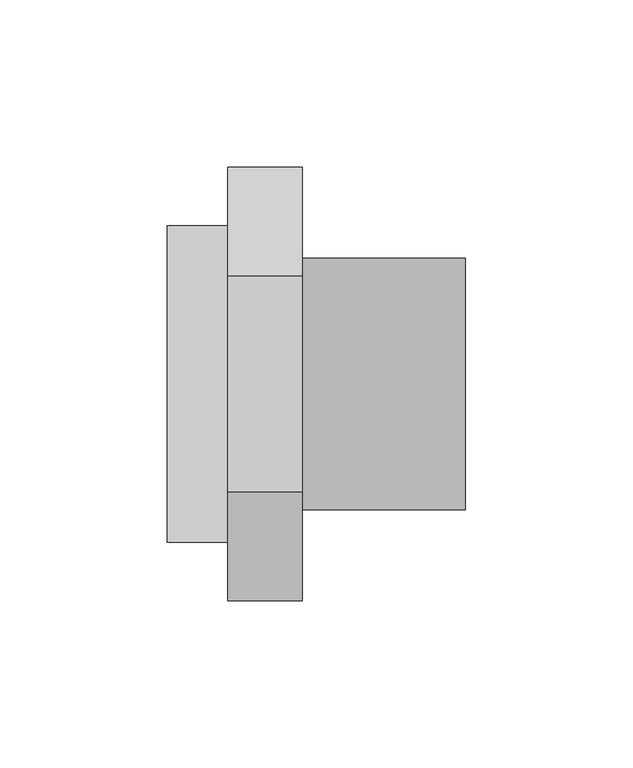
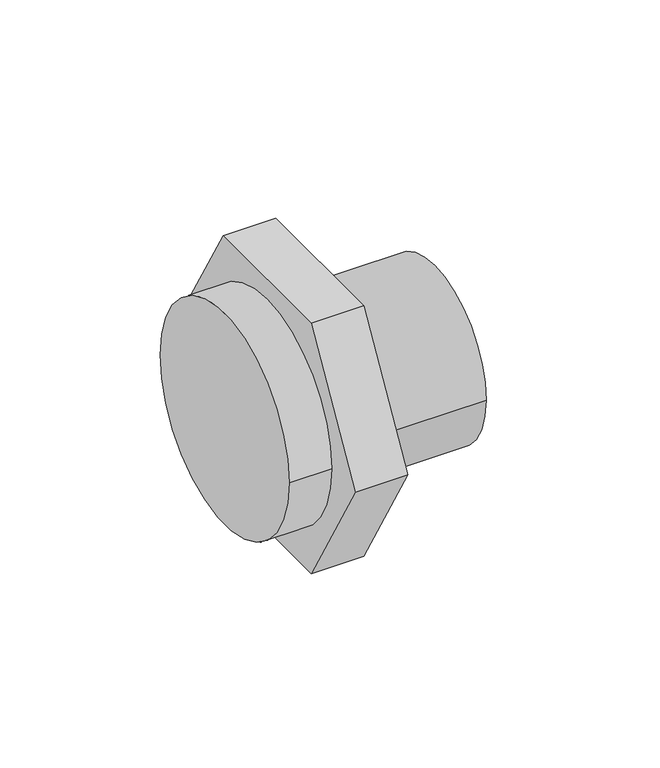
"""IFC4 building model written with IfcOpenShell, lengths in millimetres: pipe fitting geometry, 01101008 : Uniões múltiplas F/M/F."""

import ifcopenshell
import ifcopenshell.guid

model = None  # the IFC model being written
_history = None  # IfcOwnerHistory: only IFC2X3 demands one
_inside = {}  # id of a spatial element -> (the spatial element, [elements in it])
_under = {}  # id of a project, library or spatial element -> (it, [spatial elements below it])
_declared = {}  # id of a project -> (the project, [libraries it declares])
_typed = {}  # id of a type object -> (the type object, [elements of that type])
_made_of = {}  # id of a material, layer set ... -> (it, [elements and type objects made of it])


def new_model(schema):
    """Start an empty IFC model of exactly this schema.

    Asked for "IFC4X3", IfcOpenShell would pick the latest addendum, in which some entities
    have other attributes; the version numbers below select the first issue.
    IFC2X3 requires an IfcOwnerHistory on every rooted entity: one is made here for all.
    """
    global model, _history
    if schema == "IFC4X3":
        model = ifcopenshell.file(schema_version=(4, 3, 0, 0))
    else:
        model = ifcopenshell.file(schema=schema)
    _inside.clear()
    _under.clear()
    _declared.clear()
    _typed.clear()
    _made_of.clear()
    _history = None
    if model.schema == "IFC2X3":
        org = make("IfcOrganization", Name="unknown")
        user = make(
            "IfcPersonAndOrganization",
            ThePerson=make("IfcPerson", FamilyName="unknown"),
            TheOrganization=org,
        )
        app = make(
            "IfcApplication",
            ApplicationDeveloper=org,
            Version="unknown",
            ApplicationFullName="unknown",
            ApplicationIdentifier="unknown",
        )
        _history = make(
            "IfcOwnerHistory",
            OwningUser=user,
            OwningApplication=app,
            ChangeAction="ADDED",
            CreationDate=0,
        )
    return model


def make(cls, **values):
    """One entity of the class cls with the attributes given. An attribute that is None is left unset."""
    return model.create_entity(
        cls, **{name: value for name, value in values.items() if value is not None}
    )


def rooted(cls, **values):
    """An entity with a GlobalId (a new one), such as an element, a storey or a relation."""
    return make(cls, GlobalId=ifcopenshell.guid.new(), OwnerHistory=_history, **values)


def si_unit(unit_type, name, prefix=None):
    """IfcSIUnit, for example si_unit("LENGTHUNIT", "METRE", prefix="MILLI")."""
    return make("IfcSIUnit", UnitType=unit_type, Prefix=prefix, Name=name)


def assignment(units):
    """IfcUnitAssignment: the units of a project."""
    return None if units is None else make("IfcUnitAssignment", Units=units)


def point(xyz):
    """IfcCartesianPoint."""
    return None if xyz is None else make("IfcCartesianPoint", Coordinates=xyz)


def direction(xyz):
    """IfcDirection."""
    return None if xyz is None else make("IfcDirection", DirectionRatios=xyz)


def frame(location, z_axis=None, x_axis=None):
    """IfcAxis2Placement3D, a coordinate frame: its origin and axes. An axis left out is left unset."""
    return make(
        "IfcAxis2Placement3D",
        Location=point(location),
        Axis=direction(z_axis),
        RefDirection=direction(x_axis),
    )


def frame_2d(location, x_axis=None):
    """IfcAxis2Placement2D, a coordinate frame in the plane: its origin and x axis."""
    return make(
        "IfcAxis2Placement2D", Location=point(location), RefDirection=direction(x_axis)
    )


def origin():
    """The frame at (0, 0, 0) with its axes left unset."""
    return frame((0.0, 0.0, 0.0))


def origin_2d():
    """The frame at (0, 0) in the plane with its x axis left unset."""
    return frame_2d((0.0, 0.0))


def place(relative_to, where):
    """IfcLocalPlacement: puts the frame where relative to a parent placement (None: the world)."""
    return make(
        "IfcLocalPlacement", PlacementRelTo=relative_to, RelativePlacement=where
    )


def context(
    kind, dimensions, precision=None, world=None, true_north=None, identifier=None
):
    """IfcGeometricRepresentationContext, for example the 3D "Model" context."""
    return make(
        "IfcGeometricRepresentationContext",
        ContextIdentifier=identifier,
        ContextType=kind,
        CoordinateSpaceDimension=dimensions,
        Precision=precision,
        WorldCoordinateSystem=world,
        TrueNorth=true_north,
    )


def project(units=None, contexts=None):
    """IfcProject with its units and contexts."""
    return rooted(
        "IfcProject",
        Name="project",
        RepresentationContexts=contexts,
        UnitsInContext=assignment(units),
    )


def spatial(cls, under=None, at=None, **own):
    """A site, building, storey or space (cls), placed at a placement, below another one or the project."""
    s = rooted(cls, ObjectPlacement=at, **own)
    if under is not None:
        _under.setdefault(under.id(), (under, []))[1].append(s)
    return s


def polyline(points):
    """IfcPolyline through the points."""
    return make("IfcPolyline", Points=[point(p) for p in points])


def circle_curve(where, radius):
    """IfcCircle in the frame where."""
    return make("IfcCircle", Position=where, Radius=radius)


def trimmed(basis, trim1, trim2, sense, master):
    """IfcTrimmedCurve: the piece of a basis curve between two trims."""
    return make(
        "IfcTrimmedCurve",
        BasisCurve=basis,
        Trim1=trim1,
        Trim2=trim2,
        SenseAgreement=sense,
        MasterRepresentation=master,
    )


def segment(curve, same_sense, transition):
    """IfcCompositeCurveSegment."""
    return make(
        "IfcCompositeCurveSegment",
        Transition=transition,
        SameSense=same_sense,
        ParentCurve=curve,
    )


def composite_curve(segments, self_intersect=None):
    """IfcCompositeCurve: segments joined end to end."""
    return make("IfcCompositeCurve", Segments=segments, SelfIntersect=self_intersect)


def outline(outer, holes=None, kind="AREA"):
    """IfcArbitraryClosedProfileDef: a profile drawn as a closed curve; with holes, ...WithVoids."""
    if holes is None:
        return make("IfcArbitraryClosedProfileDef", ProfileType=kind, OuterCurve=outer)
    return make(
        "IfcArbitraryProfileDefWithVoids",
        ProfileType=kind,
        OuterCurve=outer,
        InnerCurves=holes,
    )


def extrude(swept, where, along, depth):
    """IfcExtrudedAreaSolid: the profile swept, set in the frame where, extruded along a direction by depth."""
    return make(
        "IfcExtrudedAreaSolid",
        SweptArea=swept,
        Position=where,
        ExtrudedDirection=direction(along),
        Depth=depth,
    )


def shape(context_of_items, identifier, shape_type, items):
    """IfcShapeRepresentation: the items that make up one representation, for example the "Body"."""
    return make(
        "IfcShapeRepresentation",
        ContextOfItems=context_of_items,
        RepresentationIdentifier=identifier,
        RepresentationType=shape_type,
        Items=items,
    )


def source(mapping_origin, context_of_items, identifier, shape_type, items):
    """IfcRepresentationMap: a shape defined once, which mapped items show again and again."""
    return make(
        "IfcRepresentationMap",
        MappingOrigin=mapping_origin,
        MappedRepresentation=shape(context_of_items, identifier, shape_type, items),
    )


def transform(
    local_origin,
    x_axis=None,
    y_axis=None,
    z_axis=None,
    scale=None,
    scale2=None,
    scale3=None,
    uniform=True,
):
    """IfcCartesianTransformationOperator3D, or its non-uniform kind. x_axis, y_axis, z_axis: its Axis1, 2, 3."""
    if uniform:
        return make(
            "IfcCartesianTransformationOperator3D",
            Axis1=direction(x_axis),
            Axis2=direction(y_axis),
            LocalOrigin=point(local_origin),
            Scale=scale,
            Axis3=direction(z_axis),
        )
    return make(
        "IfcCartesianTransformationOperator3DnonUniform",
        Axis1=direction(x_axis),
        Axis2=direction(y_axis),
        LocalOrigin=point(local_origin),
        Scale=scale,
        Axis3=direction(z_axis),
        Scale2=scale2,
        Scale3=scale3,
    )


def mapped(mapping_source, mapping_target):
    """IfcMappedItem: shows the shape of a source again, moved by a transform."""
    return make(
        "IfcMappedItem", MappingSource=mapping_source, MappingTarget=mapping_target
    )


def made_of(thing, what):
    """Note that an element or type object is made of a material, layer set ...; save() writes the relation."""
    if what is not None:
        _made_of.setdefault(what.id(), (what, []))[1].append(thing)
    return thing


def element(
    cls,
    number,
    at=None,
    inside=None,
    cuts=None,
    type_object=None,
    material=None,
    context=None,
    identifier="Body",
    shape_type=None,
    held_by="IfcProductDefinitionShape",
    body=None,
    shapes=None,
    **own,
):
    """One element of the class cls, such as IfcWall. Its Tag is "e" and its number.

    at: its placement. inside: the storey or other place that contains it. cuts: it is an
    opening in that element (IfcRelVoidsElement). A single representation is given by context,
    identifier, shape_type and body (its items); several are given by shapes. held_by: the class
    of the entity that holds the representations. save() writes the other relations.
    """
    e = rooted(cls, Tag="e%d" % number, ObjectPlacement=at, **own)
    if body is not None:
        shapes = [shape(context, identifier, shape_type, body)]
    if shapes is not None:
        e.Representation = make(held_by, Representations=shapes)
    if inside is not None:
        _inside.setdefault(inside.id(), (inside, []))[1].append(e)
    if cuts is not None:
        rooted(
            "IfcRelVoidsElement", RelatingBuildingElement=cuts, RelatedOpeningElement=e
        )
    if type_object is not None:
        _typed.setdefault(type_object.id(), (type_object, []))[1].append(e)
    return made_of(e, material)


def aggregate(whole, parts):
    """IfcRelAggregates: a whole, such as a stair, and the parts it consists of."""
    return rooted("IfcRelAggregates", RelatingObject=whole, RelatedObjects=parts)


def save(model, path):
    """Write the relations noted so far, then the file.

    IfcRelAggregates (storeys below a building ...), IfcRelContainedInSpatialStructure (elements
    in a storey), IfcRelDefinesByType, IfcRelAssociatesMaterial and IfcRelDeclares: one each for
    every whole, place, type object, material and project.
    """
    for whole, parts in _under.values():
        aggregate(whole, parts)
    for where, things in _inside.values():
        rooted(
            "IfcRelContainedInSpatialStructure",
            RelatedElements=things,
            RelatingStructure=where,
        )
    for kind, things in _typed.values():
        rooted("IfcRelDefinesByType", RelatedObjects=things, RelatingType=kind)
    for what, things in _made_of.values():
        rooted("IfcRelAssociatesMaterial", RelatedObjects=things, RelatingMaterial=what)
    for by, libraries in _declared.values():
        rooted("IfcRelDeclares", RelatingContext=by, RelatedDefinitions=libraries)
    model.write(path)


def pipe_fitting_191d8dd5(model_context):
    return source(origin(), model_context, "Body", "SweptSolid", [
        extrude(outline(composite_curve([segment(trimmed(circle_curve(origin_2d(), 47.25), [point((47.25, 0.0))], [point((-47.25, 0.0))], False, "CARTESIAN"), True, "CONTINUOUS"), segment(trimmed(circle_curve(origin_2d(), 47.25), [point((-47.25, 0.0))], [point((47.25, 0.0))], False, "CARTESIAN"), True, "CONTINUOUS")], self_intersect=False)), frame((0.0, 0.0, 0.0), z_axis=(1.0, 0.0, 0.0), x_axis=(0.0, 1.0, 0.0)), (0.0, 0.0, 1.0), 18.0),
        extrude(outline(polyline([(-32.3316151, 56.0), (32.3316151, 56.0), (64.6632301, 0.0), (32.3316151, -56.0), (-32.3316151, -56.0), (-64.6632301, 0.0), (-32.3316151, 56.0)])), frame((18.0, 0.0, 0.0), z_axis=(1.0, 0.0, 0.0), x_axis=(0.0, 1.0, 0.0)), (0.0, 0.0, 1.0), 22.25),
        extrude(outline(composite_curve([segment(trimmed(circle_curve(origin_2d(), 37.5), [point((-37.5, 0.0))], [point((37.5, 0.0))], False, "CARTESIAN"), True, "CONTINUOUS"), segment(trimmed(circle_curve(origin_2d(), 37.5), [point((37.5, 0.0))], [point((-37.5, 0.0))], False, "CARTESIAN"), True, "CONTINUOUS")], self_intersect=False)), frame((40.25, 0.0, 0.0), z_axis=(1.0, 0.0, 0.0), x_axis=(0.0, 1.0, 0.0)), (0.0, 0.0, 1.0), 48.75),
    ])


if __name__ == "__main__":
    model = new_model("IFC4")
    model_context = context("Model", 3, world=origin())
    ifc_project = project(units=[si_unit("LENGTHUNIT", "METRE", prefix="MILLI")], contexts=[model_context])
    site = spatial("IfcSite", under=ifc_project)
    building = spatial("IfcBuilding", under=site)
    placement = place(None, origin())
    pipe_fitting_shape = pipe_fitting_191d8dd5(model_context)
    element("IfcPipeFitting", 1, ObjectType="01101008 : Uniões múltiplas F/M/F", at=placement, inside=building, context=model_context, shape_type="MappedRepresentation", body=[
        mapped(pipe_fitting_shape, transform((0.0, 0.0, 0.0), x_axis=(1.0, 0.0, 0.0), y_axis=(0.0, 1.0, 0.0), z_axis=(0.0, 0.0, 1.0))),
    ])
    save(model, "model.ifc")
